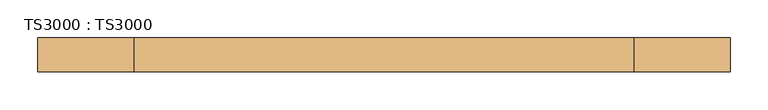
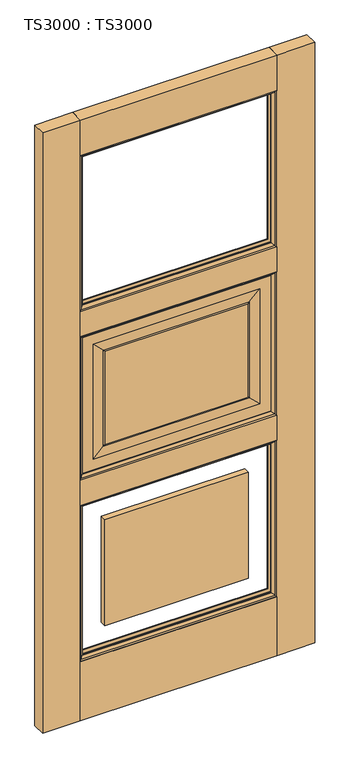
"""IFC4 building model written with IfcOpenShell, lengths in millimetres: door geometry, TS3000 : TS3000."""

from ifc_helpers import new_model, si_unit, frame, origin, origin_with_axes, place, context, project, spatial, polyline, ellipse_curve, outline, extrude, source, transform, mapped, element, save
from ifc_brep_helpers import plane_surface, revolved_surface, advanced_brep


def ts3000_ts3000_06066854(model_context):
    return source(origin(), model_context, "Body", "SolidModel", [
        advanced_brep(
        [(787.4, -12.7, 1363.1333333), (787.4, -31.75, 1363.1333333), (787.4, -31.75, 853.0166667), (787.4, -12.7, 853.0166667), (127.0, -31.75, 1363.1333333), (127.0, -31.75, 853.0166667), (736.6, -31.75, 903.8166667), (177.8, -31.75, 903.8166667), (177.8, -31.75, 1312.3333333), (736.6, -31.75, 1312.3333333), (127.0, -12.7, 853.0166667), (127.0, -12.7, 1363.1333333), (736.6, -12.7, 1312.3333333), (177.8, -12.7, 1312.3333333), (177.8, -12.7, 903.8166667), (736.6, -12.7, 903.8166667), (698.5, -33.3375, 1274.2333333), (698.5, -11.1125, 1274.2333333), (698.5, -11.1125, 941.9166667), (698.5, -33.3375, 941.9166667), (703.2625, -13.49375, 1278.9958333), (703.2625, -13.49375, 937.1541667), (215.9, -11.1125, 941.9166667), (215.9, -33.3375, 941.9166667), (703.2625, -30.95625, 1278.9958333), (703.2625, -30.95625, 937.1541667), (211.1375, -13.49375, 937.1541667), (215.9, -11.1125, 1274.2333333), (215.9, -33.3375, 1274.2333333), (211.1375, -30.95625, 937.1541667), (211.1375, -13.49375, 1278.9958333), (211.1375, -30.95625, 1278.9958333)],
        [
            (0, 1),
            (1, 2),
            (2, 3),
            (3, 0),
            (1, 4),
            (4, 5),
            (5, 2),
            (6, 7),
            (7, 8),
            (8, 9),
            (9, 6),
            (5, 10),
            (10, 3),
            (10, 11),
            (11, 0),
            (12, 13),
            (13, 14),
            (14, 15),
            (15, 12),
            (16, 17),
            (17, 18),
            (18, 19),
            (19, 16),
            (17, 20, ellipse_curve(frame((703.7585938, -6.5484375, 1279.4919271), z_axis=(-0.7071067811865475, 0.0, 0.7071067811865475), x_axis=(-0.7071067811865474, 0.0, -0.7071067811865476)), 9.8471798, 6.9630076)),
            (20, 21),
            (21, 18, ellipse_curve(frame((703.7585938, -6.5484375, 936.6580729), z_axis=(-0.7071067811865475, 0.0, -0.7071067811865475), x_axis=(0.7071067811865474, 0.0, -0.7071067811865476)), 9.8471798, 6.9630076)),
            (18, 22),
            (22, 23),
            (23, 19),
            (24, 16, ellipse_curve(frame((703.7585938, -37.9015625, 1279.4919271), z_axis=(-0.7071067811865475, 0.0, 0.7071067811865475), x_axis=(-0.7071067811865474, 0.0, -0.7071067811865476)), 9.8471798, 6.9630076)),
            (19, 25, ellipse_curve(frame((703.7585938, -37.9015625, 936.6580729), z_axis=(-0.7071067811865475, 0.0, -0.7071067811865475), x_axis=(0.7071067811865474, 0.0, -0.7071067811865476)), 9.8471798, 6.9630076)),
            (25, 24),
            (4, 11),
            (21, 26),
            (26, 22, ellipse_curve(frame((210.6414063, -6.5484375, 936.6580729), z_axis=(-0.7071067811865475, 0.0, 0.7071067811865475), x_axis=(-0.7071067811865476, 0.0, -0.7071067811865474)), 9.8471798, 6.9630076)),
            (22, 27),
            (27, 28),
            (28, 23),
            (23, 29, ellipse_curve(frame((210.6414063, -37.9015625, 936.6580729), z_axis=(-0.7071067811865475, 0.0, 0.7071067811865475), x_axis=(-0.7071067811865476, 0.0, -0.7071067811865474)), 9.8471798, 6.9630076)),
            (29, 25),
            (26, 30),
            (30, 27, ellipse_curve(frame((210.6414063, -6.5484375, 1279.4919271), z_axis=(0.7071067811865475, 0.0, 0.7071067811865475), x_axis=(-0.7071067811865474, 0.0, 0.7071067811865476)), 9.8471798, 6.9630076)),
            (28, 31, ellipse_curve(frame((210.6414063, -37.9015625, 1279.4919271), z_axis=(0.7071067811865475, 0.0, 0.7071067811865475), x_axis=(-0.7071067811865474, 0.0, 0.7071067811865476)), 9.8471798, 6.9630076)),
            (31, 29),
            (6, 25),
            (29, 7),
            (31, 8),
            (9, 24),
            (26, 14),
            (13, 30),
            (21, 15),
            (20, 12),
            (27, 17),
            (16, 28),
            (31, 24),
            (20, 30),
        ],
        [
            plane_surface(frame((787.4, -31.75, 1363.1333333), z_axis=(1.0, 0.0, 0.0), x_axis=(0.0, 0.0, -1.0))),
            plane_surface(frame((177.8, -31.75, 1312.3333333), z_axis=(0.0, -1.0, 0.0), x_axis=(1.0, 0.0, 0.0))),
            plane_surface(frame((787.4, -31.75, 853.0166667), z_axis=(0.0, 0.0, -1.0), x_axis=(-1.0, 0.0, 0.0))),
            plane_surface(frame((127.0, -12.7, 1363.1333333), z_axis=(0.0, 1.0, 0.0), x_axis=(1.0, 0.0, 0.0))),
            plane_surface(frame((698.5, -11.1125, 1274.2333333), z_axis=(-1.0, 0.0, 0.0), x_axis=(0.0, 0.0, -1.0))),
            revolved_surface(polyline([(696.7955862, -6.5484375, 929.6950652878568), (696.7955862, -6.5484375, 1286.4549347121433)]), (703.7585938, -6.5484375, 1274.2333333), (0.0, 0.0, -1.0)),
            plane_surface(frame((698.5, -11.1125, 941.9166667), z_axis=(0.0, 0.0, 1.0), x_axis=(-1.0, 0.0, 0.0))),
            revolved_surface(polyline([(696.7955862, -37.9015625, 929.6950652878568), (696.7955862, -37.9015625, 1286.4549347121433)]), (703.7585938, -37.9015625, 1274.2333333), (0.0, 0.0, -1.0)),
            plane_surface(frame((127.0, -31.75, 853.0166667), z_axis=(-1.0, 0.0, 0.0), x_axis=(0.0, 0.0, 1.0))),
            revolved_surface(polyline([(203.67839868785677, -6.5484375, 943.6210805), (710.7216014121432, -6.5484375, 943.6210805)]), (698.5, -6.5484375, 936.6580729), (-1.0, 0.0, 0.0)),
            plane_surface(frame((215.9, -11.1125, 941.9166667), z_axis=(1.0, 0.0, 0.0), x_axis=(0.0, 0.0, 1.0))),
            revolved_surface(polyline([(203.67839868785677, -37.9015625, 943.6210805), (710.7216014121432, -37.9015625, 943.6210805)]), (698.5, -37.9015625, 936.6580729), (-1.0, 0.0, 0.0)),
            revolved_surface(polyline([(217.6044139, -6.5484375, 1286.4549347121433), (217.6044139, -6.5484375, 929.6950652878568)]), (210.6414063, -6.5484375, 941.9166667), (0.0, 0.0, 1.0)),
            revolved_surface(polyline([(217.6044139, -37.9015625, 1286.4549347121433), (217.6044139, -37.9015625, 929.6950652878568)]), (210.6414063, -37.9015625, 941.9166667), (0.0, 0.0, 1.0)),
            plane_surface(frame((703.2625, -30.95625, 937.1541667), z_axis=(0.0, -0.9997166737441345, 0.023802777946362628), x_axis=(-1.0, 0.0, 0.0))),
            plane_surface(frame((211.1375, -30.95625, 937.1541667), z_axis=(0.023802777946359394, -0.9997166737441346, 0.0), x_axis=(0.0, 0.0, 1.0))),
            plane_surface(frame((703.2625, -30.95625, 1278.9958333), z_axis=(-0.02380277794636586, -0.9997166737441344, 0.0), x_axis=(0.0, 0.0, -1.0))),
            plane_surface(frame((177.8, -12.7, 903.8166667), z_axis=(0.023802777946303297, 0.9997166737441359, 0.0), x_axis=(0.0, 0.0, 1.0))),
            plane_surface(frame((736.6, -12.7, 903.8166667), z_axis=(0.0, 0.999716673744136, 0.023802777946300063), x_axis=(-1.0, 0.0, 0.0))),
            plane_surface(frame((736.6, -12.7, 1312.3333333), z_axis=(-0.02380277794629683, 0.9997166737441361, 0.0), x_axis=(0.0, 0.0, -1.0))),
            plane_surface(frame((127.0, -31.75, 1363.1333333), z_axis=(0.0, 0.0, 1.0), x_axis=(1.0, 0.0, 0.0))),
            plane_surface(frame((215.9, -11.1125, 1274.2333333), z_axis=(0.0, 0.0, -1.0), x_axis=(1.0, 0.0, 0.0))),
            plane_surface(frame((211.1375, -30.95625, 1278.9958333), z_axis=(0.0, -0.9997166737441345, -0.023802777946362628), x_axis=(1.0, 0.0, 0.0))),
            plane_surface(frame((177.8, -12.7, 1312.3333333), z_axis=(0.0, 0.999716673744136, -0.023802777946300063), x_axis=(1.0, 0.0, 0.0))),
            revolved_surface(polyline([(710.7216014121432, -6.5484375, 1272.5289195), (203.6783986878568, -6.5484375, 1272.5289195)]), (215.9, -6.5484375, 1279.4919271), (1.0, 0.0, 0.0)),
            revolved_surface(polyline([(710.7216014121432, -37.9015625, 1272.5289195), (203.6783986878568, -37.9015625, 1272.5289195)]), (215.9, -37.9015625, 1279.4919271), (1.0, 0.0, 0.0)),
        ],
        [
            (0, [[1, 2, 3, 4]]),
            (1, [[5, 6, 7, -2], [8, 9, 10, 11]]),
            (2, [[-3, -7, 12, 13]]),
            (3, [[-13, 14, 15, -4], [16, 17, 18, 19]]),
            (4, [[20, 21, 22, 23]]),
            (5, [[24, 25, 26, -21]]),
            (6, [[-22, 27, 28, 29]]),
            (7, [[30, -23, 31, 32]]),
            (8, [[-12, -6, 33, -14]]),
            (9, [[-26, 34, 35, -27]]),
            (10, [[-28, 36, 37, 38]]),
            (11, [[-31, -29, 39, 40]]),
            (12, [[-35, 41, 42, -36]]),
            (13, [[-39, -38, 43, 44]]),
            (14, [[45, -40, 46, -8]]),
            (15, [[-46, -44, 47, -9]]),
            (16, [[48, -32, -45, -11]]),
            (17, [[49, -17, 50, -41]]),
            (18, [[51, -18, -49, -34]]),
            (19, [[52, -19, -51, -25]]),
            (20, [[-33, -5, -1, -15]]),
            (21, [[-37, 53, -20, 54]]),
            (22, [[-47, 55, -48, -10]]),
            (23, [[-50, -16, -52, 56]]),
            (24, [[-42, -56, -24, -53]]),
            (25, [[-43, -54, -30, -55]]),
        ],
    ),
        extrude(outline(polyline([(787.4, -44.45), (127.0, -44.45), (127.0, 0.0), (787.4, 0.0), (787.4, -44.45)])), origin_with_axes(), (0.0, 0.0, 1.0), 209.55),
        extrude(outline(polyline([(787.4, -44.45), (127.0, -44.45), (127.0, 0.0), (787.4, 0.0), (787.4, -44.45)])), frame((0.0, 0.0, 764.1166667), z_axis=(0.0, 0.0, 1.0), x_axis=(1.0, 0.0, 0.0)), (0.0, 0.0, 1.0), 88.9),
        extrude(outline(polyline([(787.4, -44.45), (127.0, -44.45), (127.0, 0.0), (787.4, 0.0), (787.4, -44.45)])), frame((0.0, 0.0, 2006.6), z_axis=(0.0, 0.0, 1.0), x_axis=(1.0, 0.0, 0.0)), (0.0, 0.0, 1.0), 127.0),
        extrude(outline(polyline([(787.4, -44.45), (127.0, -44.45), (127.0, 0.0), (787.4, 0.0), (787.4, -44.45)])), frame((0.0, 0.0, 1363.1333333), z_axis=(0.0, 0.0, 1.0), x_axis=(1.0, 0.0, 0.0)), (0.0, 0.0, 1.0), 88.9),
        extrude(outline(polyline([(215.9, -11.1125), (698.5, -11.1125), (698.5, -33.3375), (215.9, -33.3375), (215.9, -11.1125)])), frame((0.0, 0.0, 298.45), z_axis=(0.0, 0.0, 1.0), x_axis=(1.0, 0.0, 0.0)), (0.0, 0.0, 1.0), 376.7666667),
        extrude(outline(polyline([(215.9, -11.1125), (698.5, -11.1125), (698.5, -33.3375), (215.9, -33.3375), (215.9, -11.1125)])), frame((0.0, 0.0, 941.9166667), z_axis=(0.0, 0.0, 1.0), x_axis=(1.0, 0.0, 0.0)), (0.0, 0.0, 1.0), 332.3166667),
        extrude(outline(polyline([(914.4, -44.45), (787.4, -44.45), (787.4, 0.0), (914.4, 0.0), (914.4, -44.45)])), origin_with_axes(), (0.0, 0.0, 1.0), 2133.6),
        extrude(outline(polyline([(127.0, -44.45), (0.0, -44.45), (0.0, 0.0), (127.0, 0.0), (127.0, -44.45)])), origin_with_axes(), (0.0, 0.0, 1.0), 2133.6),
        advanced_brep(
        [(787.4, -31.75, 764.1166667), (787.4, -44.4610047, 764.1166667), (787.4, -44.4610047, 209.55), (787.4, -31.75, 209.55), (774.6912454, -34.925, 751.407912), (774.6912454, -31.75, 751.407912), (774.6912454, -31.75, 222.2587546), (774.6912454, -34.925, 222.2587546), (782.5328423, -41.275, 759.249509), (782.5328423, -41.275, 214.4171577), (127.0, -44.4610047, 209.55), (127.0, -31.75, 209.55), (139.7087546, -31.75, 222.2587546), (139.7087546, -34.925, 222.2587546), (131.8671577, -41.275, 214.4171577), (127.0, -44.4610047, 764.1166667), (127.0, -31.75, 764.1166667), (139.7087546, -31.75, 751.407912), (139.7087546, -34.925, 751.407912), (131.8671577, -41.275, 759.249509)],
        [
            (0, 1),
            (1, 2),
            (2, 3),
            (3, 0),
            (4, 5),
            (5, 6),
            (6, 7),
            (7, 4),
            (8, 4, ellipse_curve(frame((770.549739, -48.0561173, 747.2664057), z_axis=(-0.7071067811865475, 0.0, 0.7071067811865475), x_axis=(-0.7071067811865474, 0.0, -0.7071067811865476)), 19.4719447, 13.7687442)),
            (7, 9, ellipse_curve(frame((770.549739, -48.0561173, 226.400261), z_axis=(-0.7071067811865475, 0.0, -0.7071067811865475), x_axis=(0.7071067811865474, 0.0, -0.7071067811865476)), 19.4719447, 13.7687442)),
            (9, 8),
            (1, 8, ellipse_curve(frame((779.4613821, -51.2778746, 756.1780488), z_axis=(-0.7071067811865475, 0.0, 0.7071067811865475), x_axis=(-0.7071067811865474, 0.0, -0.7071067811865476)), 14.7980653, 10.4638123)),
            (9, 2, ellipse_curve(frame((779.4613821, -51.2778746, 217.4886179), z_axis=(-0.7071067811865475, 0.0, -0.7071067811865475), x_axis=(0.7071067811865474, 0.0, -0.7071067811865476)), 14.7980653, 10.4638123)),
            (2, 10),
            (10, 11),
            (11, 3),
            (6, 12),
            (12, 13),
            (13, 7),
            (13, 14, ellipse_curve(frame((143.850261, -48.0561173, 226.400261), z_axis=(-0.7071067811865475, 0.0, 0.7071067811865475), x_axis=(-0.7071067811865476, 0.0, -0.7071067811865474)), 19.4719447, 13.7687442)),
            (14, 9),
            (14, 10, ellipse_curve(frame((134.9386179, -51.2778746, 217.4886179), z_axis=(-0.7071067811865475, 0.0, 0.7071067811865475), x_axis=(-0.7071067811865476, 0.0, -0.7071067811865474)), 14.7980653, 10.4638123)),
            (10, 15),
            (15, 16),
            (16, 11),
            (12, 17),
            (17, 18),
            (18, 13),
            (18, 19, ellipse_curve(frame((143.850261, -48.0561173, 747.2664057), z_axis=(0.7071067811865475, 0.0, 0.7071067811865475), x_axis=(-0.7071067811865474, 0.0, 0.7071067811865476)), 19.4719447, 13.7687442)),
            (19, 14),
            (19, 15, ellipse_curve(frame((134.9386179, -51.2778746, 756.1780488), z_axis=(0.7071067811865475, 0.0, 0.7071067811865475), x_axis=(-0.7071067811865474, 0.0, 0.7071067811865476)), 14.7980653, 10.4638123)),
            (15, 1),
            (0, 16),
            (5, 17),
            (4, 18),
            (8, 19),
        ],
        [
            plane_surface(frame((787.4, -44.4610047, 764.1166667), z_axis=(1.0, 0.0, 0.0), x_axis=(0.0, 0.0, -1.0))),
            plane_surface(frame((774.6912454, -31.75, 751.407912), z_axis=(-1.0, 0.0, 0.0), x_axis=(0.0, 0.0, -1.0))),
            revolved_surface(polyline([(756.7809948, -48.0561173, 212.6315168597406), (756.7809948, -48.0561173, 761.0351498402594)]), (770.549739, -48.0561173, 764.1166667), (0.0, 0.0, -1.0)),
            revolved_surface(polyline([(768.9975698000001, -51.2778746, 207.02480557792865), (768.9975698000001, -51.2778746, 766.6418611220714)]), (779.4613821, -51.2778746, 764.1166667), (0.0, 0.0, -1.0)),
            plane_surface(frame((787.4, -44.4610047, 209.55), z_axis=(0.0, 0.0, -1.0), x_axis=(-1.0, 0.0, 0.0))),
            plane_surface(frame((774.6912454, -31.75, 222.2587546), z_axis=(0.0, 0.0, 1.0), x_axis=(-1.0, 0.0, 0.0))),
            revolved_surface(polyline([(130.08151685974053, -48.0561173, 240.16900520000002), (784.3184831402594, -48.0561173, 240.16900520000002)]), (787.4, -48.0561173, 226.400261), (-1.0, 0.0, 0.0)),
            revolved_surface(polyline([(124.47480557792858, -51.2778746, 227.9524302), (789.9251944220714, -51.2778746, 227.9524302)]), (787.4, -51.2778746, 217.4886179), (-1.0, 0.0, 0.0)),
            plane_surface(frame((127.0, -44.4610047, 209.55), z_axis=(-1.0, 0.0, 0.0), x_axis=(0.0, 0.0, 1.0))),
            plane_surface(frame((139.7087546, -31.75, 222.2587546), z_axis=(1.0, 0.0, 0.0), x_axis=(0.0, 0.0, 1.0))),
            revolved_surface(polyline([(157.6190052, -48.0561173, 761.0351498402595), (157.6190052, -48.0561173, 212.63151685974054)]), (143.850261, -48.0561173, 209.55), (0.0, 0.0, 1.0)),
            revolved_surface(polyline([(145.4024302, -51.2778746, 766.6418611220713), (145.4024302, -51.2778746, 207.02480557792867)]), (134.9386179, -51.2778746, 209.55), (0.0, 0.0, 1.0)),
            plane_surface(frame((127.0, -44.4610047, 764.1166667), z_axis=(0.0, 0.0, 1.0), x_axis=(1.0, 0.0, 0.0))),
            plane_surface(frame((127.0, -31.75, 764.1166667), z_axis=(0.0, 1.0, 0.0), x_axis=(1.0, 0.0, 0.0))),
            plane_surface(frame((139.7087546, -31.75, 751.407912), z_axis=(0.0, 0.0, -1.0), x_axis=(1.0, 0.0, 0.0))),
            revolved_surface(polyline([(784.3184831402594, -48.0561173, 733.4976614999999), (130.08151685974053, -48.0561173, 733.4976614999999)]), (127.0, -48.0561173, 747.2664057), (1.0, 0.0, 0.0)),
            revolved_surface(polyline([(789.9251944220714, -51.2778746, 745.7142365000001), (124.47480557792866, -51.2778746, 745.7142365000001)]), (127.0, -51.2778746, 756.1780488), (1.0, 0.0, 0.0)),
        ],
        [
            (0, [[1, 2, 3, 4]]),
            (1, [[5, 6, 7, 8]]),
            (2, [[9, -8, 10, 11]]),
            (3, [[12, -11, 13, -2]]),
            (4, [[-3, 14, 15, 16]]),
            (5, [[-7, 17, 18, 19]]),
            (6, [[-10, -19, 20, 21]]),
            (7, [[-13, -21, 22, -14]]),
            (8, [[-15, 23, 24, 25]]),
            (9, [[-18, 26, 27, 28]]),
            (10, [[-20, -28, 29, 30]]),
            (11, [[-22, -30, 31, -23]]),
            (12, [[-24, 32, -1, 33]]),
            (13, [[-16, -25, -33, -4], [34, -26, -17, -6]]),
            (14, [[-27, -34, -5, 35]]),
            (15, [[-29, -35, -9, 36]]),
            (16, [[-31, -36, -12, -32]]),
        ],
    ),
        advanced_brep(
        [(782.5328423, -3.175, 759.249509), (787.4, 0.0110047, 764.1166667), (787.4, 0.0110047, 209.55), (782.5328423, -3.175, 214.4171577), (774.6912454, -9.525, 751.407912), (774.6912454, -9.525, 222.2587546), (774.6912454, -12.7, 751.407912), (774.6912454, -12.7, 222.2587546), (787.4, -12.7, 764.1166667), (787.4, -12.7, 209.55), (127.0, 0.0110047, 209.55), (131.8671577, -3.175, 214.4171577), (139.7087546, -9.525, 222.2587546), (139.7087546, -12.7, 222.2587546), (127.0, -12.7, 209.55), (127.0, 0.0110047, 764.1166667), (131.8671577, -3.175, 759.249509), (139.7087546, -9.525, 751.407912), (139.7087546, -12.7, 751.407912), (127.0, -12.7, 764.1166667)],
        [
            (0, 1, ellipse_curve(frame((779.4613821, 6.8278746, 756.1780488), z_axis=(-0.7071067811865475, 0.0, 0.7071067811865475), x_axis=(-0.7071067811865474, 0.0, -0.7071067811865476)), 14.7980653, 10.4638123)),
            (1, 2),
            (2, 3, ellipse_curve(frame((779.4613821, 6.8278746, 217.4886179), z_axis=(-0.7071067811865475, 0.0, -0.7071067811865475), x_axis=(0.7071067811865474, 0.0, -0.7071067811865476)), 14.7980653, 10.4638123)),
            (3, 0),
            (4, 0, ellipse_curve(frame((770.549739, 3.6061173, 747.2664057), z_axis=(-0.7071067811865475, 0.0, 0.7071067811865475), x_axis=(-0.7071067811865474, 0.0, -0.7071067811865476)), 19.4719447, 13.7687442)),
            (3, 5, ellipse_curve(frame((770.549739, 3.6061173, 226.400261), z_axis=(-0.7071067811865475, 0.0, -0.7071067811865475), x_axis=(0.7071067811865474, 0.0, -0.7071067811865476)), 19.4719447, 13.7687442)),
            (5, 4),
            (6, 4),
            (5, 7),
            (7, 6),
            (1, 8),
            (8, 9),
            (9, 2),
            (2, 10),
            (10, 11, ellipse_curve(frame((134.9386179, 6.8278746, 217.4886179), z_axis=(-0.7071067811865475, 0.0, 0.7071067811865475), x_axis=(-0.7071067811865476, 0.0, -0.7071067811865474)), 14.7980653, 10.4638123)),
            (11, 3),
            (11, 12, ellipse_curve(frame((143.850261, 3.6061173, 226.400261), z_axis=(-0.7071067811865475, 0.0, 0.7071067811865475), x_axis=(-0.7071067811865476, 0.0, -0.7071067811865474)), 19.4719447, 13.7687442)),
            (12, 5),
            (12, 13),
            (13, 7),
            (9, 14),
            (14, 10),
            (10, 15),
            (15, 16, ellipse_curve(frame((134.9386179, 6.8278746, 756.1780488), z_axis=(0.7071067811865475, 0.0, 0.7071067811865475), x_axis=(-0.7071067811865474, 0.0, 0.7071067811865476)), 14.7980653, 10.4638123)),
            (16, 11),
            (16, 17, ellipse_curve(frame((143.850261, 3.6061173, 747.2664057), z_axis=(0.7071067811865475, 0.0, 0.7071067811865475), x_axis=(-0.7071067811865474, 0.0, 0.7071067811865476)), 19.4719447, 13.7687442)),
            (17, 12),
            (17, 18),
            (18, 13),
            (14, 19),
            (19, 15),
            (15, 1),
            (0, 16),
            (4, 17),
            (6, 18),
            (8, 19),
        ],
        [
            revolved_surface(polyline([(768.9975698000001, 6.8278746, 207.02480557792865), (768.9975698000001, 6.8278746, 766.6418611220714)]), (779.4613821, 6.8278746, 764.1166667), (0.0, 0.0, -1.0)),
            revolved_surface(polyline([(756.7809948, 3.6061173, 212.6315168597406), (756.7809948, 3.6061173, 761.0351498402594)]), (770.549739, 3.6061173, 764.1166667), (0.0, 0.0, -1.0)),
            plane_surface(frame((774.6912454, -9.525, 751.407912), z_axis=(-1.0, 0.0, 0.0), x_axis=(0.0, 0.0, -1.0))),
            plane_surface(frame((787.4, -12.7, 764.1166667), z_axis=(1.0, 0.0, 0.0), x_axis=(0.0, 0.0, -1.0))),
            revolved_surface(polyline([(124.47480557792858, 6.8278746, 227.9524302), (789.9251944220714, 6.8278746, 227.9524302)]), (787.4, 6.8278746, 217.4886179), (-1.0, 0.0, 0.0)),
            revolved_surface(polyline([(130.08151685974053, 3.6061173, 240.16900520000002), (784.3184831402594, 3.6061173, 240.16900520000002)]), (787.4, 3.6061173, 226.400261), (-1.0, 0.0, 0.0)),
            plane_surface(frame((774.6912454, -9.525, 222.2587546), z_axis=(0.0, 0.0, 1.0), x_axis=(-1.0, 0.0, 0.0))),
            plane_surface(frame((787.4, -12.7, 209.55), z_axis=(0.0, 0.0, -1.0), x_axis=(-1.0, 0.0, 0.0))),
            revolved_surface(polyline([(145.4024302, 6.8278746, 766.6418611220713), (145.4024302, 6.8278746, 207.02480557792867)]), (134.9386179, 6.8278746, 209.55), (0.0, 0.0, 1.0)),
            revolved_surface(polyline([(157.6190052, 3.6061173, 761.0351498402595), (157.6190052, 3.6061173, 212.63151685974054)]), (143.850261, 3.6061173, 209.55), (0.0, 0.0, 1.0)),
            plane_surface(frame((139.7087546, -9.525, 222.2587546), z_axis=(1.0, 0.0, 0.0), x_axis=(0.0, 0.0, 1.0))),
            plane_surface(frame((127.0, -12.7, 209.55), z_axis=(-1.0, 0.0, 0.0), x_axis=(0.0, 0.0, 1.0))),
            revolved_surface(polyline([(789.9251944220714, 6.8278746, 745.7142365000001), (124.47480557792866, 6.8278746, 745.7142365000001)]), (127.0, 6.8278746, 756.1780488), (1.0, 0.0, 0.0)),
            revolved_surface(polyline([(784.3184831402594, 3.6061173, 733.4976614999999), (130.08151685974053, 3.6061173, 733.4976614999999)]), (127.0, 3.6061173, 747.2664057), (1.0, 0.0, 0.0)),
            plane_surface(frame((139.7087546, -9.525, 751.407912), z_axis=(0.0, 0.0, -1.0), x_axis=(1.0, 0.0, 0.0))),
            plane_surface(frame((139.7087546, -12.7, 751.407912), z_axis=(0.0, -1.0, 0.0), x_axis=(1.0, 0.0, 0.0))),
            plane_surface(frame((127.0, -12.7, 764.1166667), z_axis=(0.0, 0.0, 1.0), x_axis=(1.0, 0.0, 0.0))),
        ],
        [
            (0, [[1, 2, 3, 4]]),
            (1, [[5, -4, 6, 7]]),
            (2, [[8, -7, 9, 10]]),
            (3, [[11, 12, 13, -2]]),
            (4, [[-3, 14, 15, 16]]),
            (5, [[-6, -16, 17, 18]]),
            (6, [[-9, -18, 19, 20]]),
            (7, [[-13, 21, 22, -14]]),
            (8, [[-15, 23, 24, 25]]),
            (9, [[-17, -25, 26, 27]]),
            (10, [[-19, -27, 28, 29]]),
            (11, [[-22, 30, 31, -23]]),
            (12, [[-24, 32, -1, 33]]),
            (13, [[-26, -33, -5, 34]]),
            (14, [[-28, -34, -8, 35]]),
            (15, [[36, -30, -21, -12], [-20, -29, -35, -10]]),
            (16, [[-31, -36, -11, -32]]),
        ],
    ),
        advanced_brep(
        [(787.4, -31.75, 1363.1333333), (787.4, -44.4610047, 1363.1333333), (787.4, -44.4610047, 853.0166667), (787.4, -31.75, 853.0166667), (774.6912454, -34.925, 1350.4245787), (774.6912454, -31.75, 1350.4245787), (774.6912454, -31.75, 865.7254213), (774.6912454, -34.925, 865.7254213), (782.5328423, -41.275, 1358.2661757), (782.5328423, -41.275, 857.8838243), (127.0, -44.4610047, 853.0166667), (127.0, -31.75, 853.0166667), (139.7087546, -31.75, 865.7254213), (139.7087546, -34.925, 865.7254213), (131.8671577, -41.275, 857.8838243), (127.0, -44.4610047, 1363.1333333), (127.0, -31.75, 1363.1333333), (139.7087546, -31.75, 1350.4245787), (139.7087546, -34.925, 1350.4245787), (131.8671577, -41.275, 1358.2661757)],
        [
            (0, 1),
            (1, 2),
            (2, 3),
            (3, 0),
            (4, 5),
            (5, 6),
            (6, 7),
            (7, 4),
            (8, 4, ellipse_curve(frame((770.549739, -48.0561173, 1346.2830724), z_axis=(-0.7071067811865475, 0.0, 0.7071067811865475), x_axis=(-0.7071067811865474, 0.0, -0.7071067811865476)), 19.4719447, 13.7687442)),
            (7, 9, ellipse_curve(frame((770.549739, -48.0561173, 869.8669276), z_axis=(-0.7071067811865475, 0.0, -0.7071067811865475), x_axis=(0.7071067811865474, 0.0, -0.7071067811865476)), 19.4719447, 13.7687442)),
            (9, 8),
            (1, 8, ellipse_curve(frame((779.4613821, -51.2778746, 1355.1947155), z_axis=(-0.7071067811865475, 0.0, 0.7071067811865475), x_axis=(-0.7071067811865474, 0.0, -0.7071067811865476)), 14.7980653, 10.4638123)),
            (9, 2, ellipse_curve(frame((779.4613821, -51.2778746, 860.9552845), z_axis=(-0.7071067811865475, 0.0, -0.7071067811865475), x_axis=(0.7071067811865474, 0.0, -0.7071067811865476)), 14.7980653, 10.4638123)),
            (2, 10),
            (10, 11),
            (11, 3),
            (6, 12),
            (12, 13),
            (13, 7),
            (13, 14, ellipse_curve(frame((143.850261, -48.0561173, 869.8669276), z_axis=(-0.7071067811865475, 0.0, 0.7071067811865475), x_axis=(-0.7071067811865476, 0.0, -0.7071067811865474)), 19.4719447, 13.7687442)),
            (14, 9),
            (14, 10, ellipse_curve(frame((134.9386179, -51.2778746, 860.9552845), z_axis=(-0.7071067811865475, 0.0, 0.7071067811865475), x_axis=(-0.7071067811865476, 0.0, -0.7071067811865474)), 14.7980653, 10.4638123)),
            (10, 15),
            (15, 16),
            (16, 11),
            (12, 17),
            (17, 18),
            (18, 13),
            (18, 19, ellipse_curve(frame((143.850261, -48.0561173, 1346.2830724), z_axis=(0.7071067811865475, 0.0, 0.7071067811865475), x_axis=(-0.7071067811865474, 0.0, 0.7071067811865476)), 19.4719447, 13.7687442)),
            (19, 14),
            (19, 15, ellipse_curve(frame((134.9386179, -51.2778746, 1355.1947155), z_axis=(0.7071067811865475, 0.0, 0.7071067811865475), x_axis=(-0.7071067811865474, 0.0, 0.7071067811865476)), 14.7980653, 10.4638123)),
            (15, 1),
            (0, 16),
            (5, 17),
            (4, 18),
            (8, 19),
        ],
        [
            plane_surface(frame((787.4, -44.4610047, 1363.1333333), z_axis=(1.0, 0.0, 0.0), x_axis=(0.0, 0.0, -1.0))),
            plane_surface(frame((774.6912454, -31.75, 1350.4245787), z_axis=(-1.0, 0.0, 0.0), x_axis=(0.0, 0.0, -1.0))),
            revolved_surface(polyline([(756.7809948, -48.0561173, 856.0981834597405), (756.7809948, -48.0561173, 1360.0518165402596)]), (770.549739, -48.0561173, 1363.1333333), (0.0, 0.0, -1.0)),
            revolved_surface(polyline([(768.9975698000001, -51.2778746, 850.4914721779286), (768.9975698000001, -51.2778746, 1365.6585278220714)]), (779.4613821, -51.2778746, 1363.1333333), (0.0, 0.0, -1.0)),
            plane_surface(frame((787.4, -44.4610047, 853.0166667), z_axis=(0.0, 0.0, -1.0), x_axis=(-1.0, 0.0, 0.0))),
            plane_surface(frame((774.6912454, -31.75, 865.7254213), z_axis=(0.0, 0.0, 1.0), x_axis=(-1.0, 0.0, 0.0))),
            revolved_surface(polyline([(130.08151685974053, -48.0561173, 883.6356718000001), (784.3184831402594, -48.0561173, 883.6356718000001)]), (787.4, -48.0561173, 869.8669276), (-1.0, 0.0, 0.0)),
            revolved_surface(polyline([(124.47480557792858, -51.2778746, 871.4190967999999), (789.9251944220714, -51.2778746, 871.4190967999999)]), (787.4, -51.2778746, 860.9552845), (-1.0, 0.0, 0.0)),
            plane_surface(frame((127.0, -44.4610047, 853.0166667), z_axis=(-1.0, 0.0, 0.0), x_axis=(0.0, 0.0, 1.0))),
            plane_surface(frame((139.7087546, -31.75, 865.7254213), z_axis=(1.0, 0.0, 0.0), x_axis=(0.0, 0.0, 1.0))),
            revolved_surface(polyline([(157.6190052, -48.0561173, 1360.0518165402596), (157.6190052, -48.0561173, 856.0981834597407)]), (143.850261, -48.0561173, 853.0166667), (0.0, 0.0, 1.0)),
            revolved_surface(polyline([(145.4024302, -51.2778746, 1365.6585278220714), (145.4024302, -51.2778746, 850.4914721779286)]), (134.9386179, -51.2778746, 853.0166667), (0.0, 0.0, 1.0)),
            plane_surface(frame((127.0, -44.4610047, 1363.1333333), z_axis=(0.0, 0.0, 1.0), x_axis=(1.0, 0.0, 0.0))),
            plane_surface(frame((127.0, -31.75, 1363.1333333), z_axis=(0.0, 1.0, 0.0), x_axis=(1.0, 0.0, 0.0))),
            plane_surface(frame((139.7087546, -31.75, 1350.4245787), z_axis=(0.0, 0.0, -1.0), x_axis=(1.0, 0.0, 0.0))),
            revolved_surface(polyline([(784.3184831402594, -48.0561173, 1332.5143282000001), (130.08151685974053, -48.0561173, 1332.5143282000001)]), (127.0, -48.0561173, 1346.2830724), (1.0, 0.0, 0.0)),
            revolved_surface(polyline([(789.9251944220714, -51.2778746, 1344.7309032), (124.47480557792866, -51.2778746, 1344.7309032)]), (127.0, -51.2778746, 1355.1947155), (1.0, 0.0, 0.0)),
        ],
        [
            (0, [[1, 2, 3, 4]]),
            (1, [[5, 6, 7, 8]]),
            (2, [[9, -8, 10, 11]]),
            (3, [[12, -11, 13, -2]]),
            (4, [[-3, 14, 15, 16]]),
            (5, [[-7, 17, 18, 19]]),
            (6, [[-10, -19, 20, 21]]),
            (7, [[-13, -21, 22, -14]]),
            (8, [[-15, 23, 24, 25]]),
            (9, [[-18, 26, 27, 28]]),
            (10, [[-20, -28, 29, 30]]),
            (11, [[-22, -30, 31, -23]]),
            (12, [[-24, 32, -1, 33]]),
            (13, [[-16, -25, -33, -4], [34, -26, -17, -6]]),
            (14, [[-27, -34, -5, 35]]),
            (15, [[-29, -35, -9, 36]]),
            (16, [[-31, -36, -12, -32]]),
        ],
    ),
        advanced_brep(
        [(782.5328423, -3.175, 1358.2661757), (787.4, 0.0110047, 1363.1333333), (787.4, 0.0110047, 853.0166667), (782.5328423, -3.175, 857.8838243), (774.6912454, -9.525, 1350.4245787), (774.6912454, -9.525, 865.7254213), (774.6912454, -12.7, 1350.4245787), (774.6912454, -12.7, 865.7254213), (787.4, -12.7, 1363.1333333), (787.4, -12.7, 853.0166667), (127.0, 0.0110047, 853.0166667), (131.8671577, -3.175, 857.8838243), (139.7087546, -9.525, 865.7254213), (139.7087546, -12.7, 865.7254213), (127.0, -12.7, 853.0166667), (127.0, 0.0110047, 1363.1333333), (131.8671577, -3.175, 1358.2661757), (139.7087546, -9.525, 1350.4245787), (139.7087546, -12.7, 1350.4245787), (127.0, -12.7, 1363.1333333)],
        [
            (0, 1, ellipse_curve(frame((779.4613821, 6.8278746, 1355.1947155), z_axis=(-0.7071067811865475, 0.0, 0.7071067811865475), x_axis=(-0.7071067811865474, 0.0, -0.7071067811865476)), 14.7980653, 10.4638123)),
            (1, 2),
            (2, 3, ellipse_curve(frame((779.4613821, 6.8278746, 860.9552845), z_axis=(-0.7071067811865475, 0.0, -0.7071067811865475), x_axis=(0.7071067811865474, 0.0, -0.7071067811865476)), 14.7980653, 10.4638123)),
            (3, 0),
            (4, 0, ellipse_curve(frame((770.549739, 3.6061173, 1346.2830724), z_axis=(-0.7071067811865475, 0.0, 0.7071067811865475), x_axis=(-0.7071067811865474, 0.0, -0.7071067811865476)), 19.4719447, 13.7687442)),
            (3, 5, ellipse_curve(frame((770.549739, 3.6061173, 869.8669276), z_axis=(-0.7071067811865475, 0.0, -0.7071067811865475), x_axis=(0.7071067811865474, 0.0, -0.7071067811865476)), 19.4719447, 13.7687442)),
            (5, 4),
            (6, 4),
            (5, 7),
            (7, 6),
            (1, 8),
            (8, 9),
            (9, 2),
            (2, 10),
            (10, 11, ellipse_curve(frame((134.9386179, 6.8278746, 860.9552845), z_axis=(-0.7071067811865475, 0.0, 0.7071067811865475), x_axis=(-0.7071067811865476, 0.0, -0.7071067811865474)), 14.7980653, 10.4638123)),
            (11, 3),
            (11, 12, ellipse_curve(frame((143.850261, 3.6061173, 869.8669276), z_axis=(-0.7071067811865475, 0.0, 0.7071067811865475), x_axis=(-0.7071067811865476, 0.0, -0.7071067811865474)), 19.4719447, 13.7687442)),
            (12, 5),
            (12, 13),
            (13, 7),
            (9, 14),
            (14, 10),
            (10, 15),
            (15, 16, ellipse_curve(frame((134.9386179, 6.8278746, 1355.1947155), z_axis=(0.7071067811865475, 0.0, 0.7071067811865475), x_axis=(-0.7071067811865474, 0.0, 0.7071067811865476)), 14.7980653, 10.4638123)),
            (16, 11),
            (16, 17, ellipse_curve(frame((143.850261, 3.6061173, 1346.2830724), z_axis=(0.7071067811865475, 0.0, 0.7071067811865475), x_axis=(-0.7071067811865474, 0.0, 0.7071067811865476)), 19.4719447, 13.7687442)),
            (17, 12),
            (17, 18),
            (18, 13),
            (14, 19),
            (19, 15),
            (15, 1),
            (0, 16),
            (4, 17),
            (6, 18),
            (8, 19),
        ],
        [
            revolved_surface(polyline([(768.9975698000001, 6.8278746, 850.4914721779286), (768.9975698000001, 6.8278746, 1365.6585278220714)]), (779.4613821, 6.8278746, 1363.1333333), (0.0, 0.0, -1.0)),
            revolved_surface(polyline([(756.7809948, 3.6061173, 856.0981834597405), (756.7809948, 3.6061173, 1360.0518165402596)]), (770.549739, 3.6061173, 1363.1333333), (0.0, 0.0, -1.0)),
            plane_surface(frame((774.6912454, -9.525, 1350.4245787), z_axis=(-1.0, 0.0, 0.0), x_axis=(0.0, 0.0, -1.0))),
            plane_surface(frame((787.4, -12.7, 1363.1333333), z_axis=(1.0, 0.0, 0.0), x_axis=(0.0, 0.0, -1.0))),
            revolved_surface(polyline([(124.47480557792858, 6.8278746, 871.4190967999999), (789.9251944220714, 6.8278746, 871.4190967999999)]), (787.4, 6.8278746, 860.9552845), (-1.0, 0.0, 0.0)),
            revolved_surface(polyline([(130.08151685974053, 3.6061173, 883.6356718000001), (784.3184831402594, 3.6061173, 883.6356718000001)]), (787.4, 3.6061173, 869.8669276), (-1.0, 0.0, 0.0)),
            plane_surface(frame((774.6912454, -9.525, 865.7254213), z_axis=(0.0, 0.0, 1.0), x_axis=(-1.0, 0.0, 0.0))),
            plane_surface(frame((787.4, -12.7, 853.0166667), z_axis=(0.0, 0.0, -1.0), x_axis=(-1.0, 0.0, 0.0))),
            revolved_surface(polyline([(145.4024302, 6.8278746, 1365.6585278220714), (145.4024302, 6.8278746, 850.4914721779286)]), (134.9386179, 6.8278746, 853.0166667), (0.0, 0.0, 1.0)),
            revolved_surface(polyline([(157.6190052, 3.6061173, 1360.0518165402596), (157.6190052, 3.6061173, 856.0981834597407)]), (143.850261, 3.6061173, 853.0166667), (0.0, 0.0, 1.0)),
            plane_surface(frame((139.7087546, -9.525, 865.7254213), z_axis=(1.0, 0.0, 0.0), x_axis=(0.0, 0.0, 1.0))),
            plane_surface(frame((127.0, -12.7, 853.0166667), z_axis=(-1.0, 0.0, 0.0), x_axis=(0.0, 0.0, 1.0))),
            revolved_surface(polyline([(789.9251944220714, 6.8278746, 1344.7309032), (124.47480557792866, 6.8278746, 1344.7309032)]), (127.0, 6.8278746, 1355.1947155), (1.0, 0.0, 0.0)),
            revolved_surface(polyline([(784.3184831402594, 3.6061173, 1332.5143282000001), (130.08151685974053, 3.6061173, 1332.5143282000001)]), (127.0, 3.6061173, 1346.2830724), (1.0, 0.0, 0.0)),
            plane_surface(frame((139.7087546, -9.525, 1350.4245787), z_axis=(0.0, 0.0, -1.0), x_axis=(1.0, 0.0, 0.0))),
            plane_surface(frame((139.7087546, -12.7, 1350.4245787), z_axis=(0.0, -1.0, 0.0), x_axis=(1.0, 0.0, 0.0))),
            plane_surface(frame((127.0, -12.7, 1363.1333333), z_axis=(0.0, 0.0, 1.0), x_axis=(1.0, 0.0, 0.0))),
        ],
        [
            (0, [[1, 2, 3, 4]]),
            (1, [[5, -4, 6, 7]]),
            (2, [[8, -7, 9, 10]]),
            (3, [[11, 12, 13, -2]]),
            (4, [[-3, 14, 15, 16]]),
            (5, [[-6, -16, 17, 18]]),
            (6, [[-9, -18, 19, 20]]),
            (7, [[-13, 21, 22, -14]]),
            (8, [[-15, 23, 24, 25]]),
            (9, [[-17, -25, 26, 27]]),
            (10, [[-19, -27, 28, 29]]),
            (11, [[-22, 30, 31, -23]]),
            (12, [[-24, 32, -1, 33]]),
            (13, [[-26, -33, -5, 34]]),
            (14, [[-28, -34, -8, 35]]),
            (15, [[36, -30, -21, -12], [-20, -29, -35, -10]]),
            (16, [[-31, -36, -11, -32]]),
        ],
    ),
        advanced_brep(
        [(787.4, -31.75, 2006.6), (787.4, -44.4610047, 2006.6), (787.4, -44.4610047, 1452.0333333), (787.4, -31.75, 1452.0333333), (774.6912454, -34.925, 1993.8912454), (774.6912454, -31.75, 1993.8912454), (774.6912454, -31.75, 1464.742088), (774.6912454, -34.925, 1464.742088), (782.5328423, -41.275, 2001.7328423), (782.5328423, -41.275, 1456.900491), (127.0, -44.4610047, 1452.0333333), (127.0, -31.75, 1452.0333333), (139.7087546, -31.75, 1464.742088), (139.7087546, -34.925, 1464.742088), (131.8671577, -41.275, 1456.900491), (127.0, -44.4610047, 2006.6), (127.0, -31.75, 2006.6), (139.7087546, -31.75, 1993.8912454), (139.7087546, -34.925, 1993.8912454), (131.8671577, -41.275, 2001.7328423)],
        [
            (0, 1),
            (1, 2),
            (2, 3),
            (3, 0),
            (4, 5),
            (5, 6),
            (6, 7),
            (7, 4),
            (8, 4, ellipse_curve(frame((771.2743353, -47.1613154, 1990.4743353), z_axis=(-0.7071067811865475, 0.0, 0.7071067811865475), x_axis=(-0.7071067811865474, 0.0, -0.7071067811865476)), 17.9667854, 12.7044358)),
            (7, 9, ellipse_curve(frame((771.2743353, -47.1613154, 1468.158998), z_axis=(-0.7071067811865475, 0.0, -0.7071067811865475), x_axis=(0.7071067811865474, 0.0, -0.7071067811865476)), 17.9667854, 12.7044358)),
            (9, 8),
            (1, 8, ellipse_curve(frame((780.1585588, -50.2128202, 1999.3585588), z_axis=(-0.7071067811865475, 0.0, 0.7071067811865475), x_axis=(-0.7071067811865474, 0.0, -0.7071067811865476)), 13.0783678, 9.2478026)),
            (9, 2, ellipse_curve(frame((780.1585588, -50.2128202, 1459.2747746), z_axis=(-0.7071067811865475, 0.0, -0.7071067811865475), x_axis=(0.7071067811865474, 0.0, -0.7071067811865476)), 13.0783678, 9.2478026)),
            (2, 10),
            (10, 11),
            (11, 3),
            (6, 12),
            (12, 13),
            (13, 7),
            (13, 14, ellipse_curve(frame((143.1256647, -47.1613154, 1468.158998), z_axis=(-0.7071067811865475, 0.0, 0.7071067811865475), x_axis=(-0.7071067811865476, 0.0, -0.7071067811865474)), 17.9667854, 12.7044358)),
            (14, 9),
            (14, 10, ellipse_curve(frame((134.2414412, -50.2128202, 1459.2747746), z_axis=(-0.7071067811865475, 0.0, 0.7071067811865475), x_axis=(-0.7071067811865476, 0.0, -0.7071067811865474)), 13.0783678, 9.2478026)),
            (10, 15),
            (15, 16),
            (16, 11),
            (12, 17),
            (17, 18),
            (18, 13),
            (18, 19, ellipse_curve(frame((143.1256647, -47.1613154, 1990.4743353), z_axis=(0.7071067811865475, 0.0, 0.7071067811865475), x_axis=(-0.7071067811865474, 0.0, 0.7071067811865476)), 17.9667854, 12.7044358)),
            (19, 14),
            (19, 15, ellipse_curve(frame((134.2414412, -50.2128202, 1999.3585588), z_axis=(0.7071067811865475, 0.0, 0.7071067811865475), x_axis=(-0.7071067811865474, 0.0, 0.7071067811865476)), 13.0783678, 9.2478026)),
            (15, 1),
            (0, 16),
            (5, 17),
            (4, 18),
            (8, 19),
        ],
        [
            plane_surface(frame((787.4, -44.4610047, 2006.6), z_axis=(1.0, 0.0, 0.0), x_axis=(0.0, 0.0, -1.0))),
            plane_surface(frame((774.6912454, -31.75, 1993.8912454), z_axis=(-1.0, 0.0, 0.0), x_axis=(0.0, 0.0, -1.0))),
            revolved_surface(polyline([(758.5698994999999, -47.1613154, 1455.4545622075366), (758.5698994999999, -47.1613154, 2003.1787710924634)]), (771.2743353, -47.1613154, 2006.6), (0.0, 0.0, -1.0)),
            revolved_surface(polyline([(770.9107562, -50.2128202, 1450.0269720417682), (770.9107562, -50.2128202, 2008.6063613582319)]), (780.1585588, -50.2128202, 2006.6), (0.0, 0.0, -1.0)),
            plane_surface(frame((787.4, -44.4610047, 1452.0333333), z_axis=(0.0, 0.0, -1.0), x_axis=(-1.0, 0.0, 0.0))),
            plane_surface(frame((774.6912454, -31.75, 1464.742088), z_axis=(0.0, 0.0, 1.0), x_axis=(-1.0, 0.0, 0.0))),
            revolved_surface(polyline([(130.4212289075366, -47.1613154, 1480.8634338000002), (783.9787710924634, -47.1613154, 1480.8634338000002)]), (787.4, -47.1613154, 1468.158998), (-1.0, 0.0, 0.0)),
            revolved_surface(polyline([(124.99363864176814, -50.2128202, 1468.5225772), (789.4063613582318, -50.2128202, 1468.5225772)]), (787.4, -50.2128202, 1459.2747746), (-1.0, 0.0, 0.0)),
            plane_surface(frame((127.0, -44.4610047, 1452.0333333), z_axis=(-1.0, 0.0, 0.0), x_axis=(0.0, 0.0, 1.0))),
            plane_surface(frame((139.7087546, -31.75, 1464.742088), z_axis=(1.0, 0.0, 0.0), x_axis=(0.0, 0.0, 1.0))),
            revolved_surface(polyline([(155.8301005, -47.1613154, 2003.1787710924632), (155.8301005, -47.1613154, 1455.4545622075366)]), (143.1256647, -47.1613154, 1452.0333333), (0.0, 0.0, 1.0)),
            revolved_surface(polyline([(143.4892438, -50.2128202, 2008.6063613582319), (143.4892438, -50.2128202, 1450.0269720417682)]), (134.2414412, -50.2128202, 1452.0333333), (0.0, 0.0, 1.0)),
            plane_surface(frame((127.0, -44.4610047, 2006.6), z_axis=(0.0, 0.0, 1.0), x_axis=(1.0, 0.0, 0.0))),
            plane_surface(frame((127.0, -31.75, 2006.6), z_axis=(0.0, 1.0, 0.0), x_axis=(1.0, 0.0, 0.0))),
            plane_surface(frame((139.7087546, -31.75, 1993.8912454), z_axis=(0.0, 0.0, -1.0), x_axis=(1.0, 0.0, 0.0))),
            revolved_surface(polyline([(783.9787710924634, -47.1613154, 1977.7698994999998), (130.42122890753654, -47.1613154, 1977.7698994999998)]), (127.0, -47.1613154, 1990.4743353), (1.0, 0.0, 0.0)),
            revolved_surface(polyline([(789.4063613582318, -50.2128202, 1990.1107562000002), (124.99363864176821, -50.2128202, 1990.1107562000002)]), (127.0, -50.2128202, 1999.3585588), (1.0, 0.0, 0.0)),
        ],
        [
            (0, [[1, 2, 3, 4]]),
            (1, [[5, 6, 7, 8]]),
            (2, [[9, -8, 10, 11]]),
            (3, [[12, -11, 13, -2]]),
            (4, [[-3, 14, 15, 16]]),
            (5, [[-7, 17, 18, 19]]),
            (6, [[-10, -19, 20, 21]]),
            (7, [[-13, -21, 22, -14]]),
            (8, [[-15, 23, 24, 25]]),
            (9, [[-18, 26, 27, 28]]),
            (10, [[-20, -28, 29, 30]]),
            (11, [[-22, -30, 31, -23]]),
            (12, [[-24, 32, -1, 33]]),
            (13, [[-16, -25, -33, -4], [34, -26, -17, -6]]),
            (14, [[-27, -34, -5, 35]]),
            (15, [[-29, -35, -9, 36]]),
            (16, [[-31, -36, -12, -32]]),
        ],
    ),
        advanced_brep(
        [(782.5328423, -3.175, 2001.7328423), (787.4, 0.0110047, 2006.6), (787.4, 0.0110047, 1452.0333333), (782.5328423, -3.175, 1456.900491), (774.6912454, -9.525, 1993.8912454), (774.6912454, -9.525, 1464.742088), (774.6912454, -12.7, 1993.8912454), (774.6912454, -12.7, 1464.742088), (787.4, -12.7, 2006.6), (787.4, -12.7, 1452.0333333), (127.0, 0.0110047, 1452.0333333), (131.8671577, -3.175, 1456.900491), (139.7087546, -9.525, 1464.742088), (139.7087546, -12.7, 1464.742088), (127.0, -12.7, 1452.0333333), (127.0, 0.0110047, 2006.6), (131.8671577, -3.175, 2001.7328423), (139.7087546, -9.525, 1993.8912454), (139.7087546, -12.7, 1993.8912454), (127.0, -12.7, 2006.6)],
        [
            (0, 1, ellipse_curve(frame((780.1585588, 5.7628202, 1999.3585588), z_axis=(-0.7071067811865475, 0.0, 0.7071067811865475), x_axis=(-0.7071067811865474, 0.0, -0.7071067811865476)), 13.0783678, 9.2478026)),
            (1, 2),
            (2, 3, ellipse_curve(frame((780.1585588, 5.7628202, 1459.2747746), z_axis=(-0.7071067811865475, 0.0, -0.7071067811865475), x_axis=(0.7071067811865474, 0.0, -0.7071067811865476)), 13.0783678, 9.2478026)),
            (3, 0),
            (4, 0, ellipse_curve(frame((771.2743353, 2.7113154, 1990.4743353), z_axis=(-0.7071067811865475, 0.0, 0.7071067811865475), x_axis=(-0.7071067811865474, 0.0, -0.7071067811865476)), 17.9667854, 12.7044358)),
            (3, 5, ellipse_curve(frame((771.2743353, 2.7113154, 1468.158998), z_axis=(-0.7071067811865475, 0.0, -0.7071067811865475), x_axis=(0.7071067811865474, 0.0, -0.7071067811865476)), 17.9667854, 12.7044358)),
            (5, 4),
            (6, 4),
            (5, 7),
            (7, 6),
            (1, 8),
            (8, 9),
            (9, 2),
            (2, 10),
            (10, 11, ellipse_curve(frame((134.2414412, 5.7628202, 1459.2747746), z_axis=(-0.7071067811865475, 0.0, 0.7071067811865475), x_axis=(-0.7071067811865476, 0.0, -0.7071067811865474)), 13.0783678, 9.2478026)),
            (11, 3),
            (11, 12, ellipse_curve(frame((143.1256647, 2.7113154, 1468.158998), z_axis=(-0.7071067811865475, 0.0, 0.7071067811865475), x_axis=(-0.7071067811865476, 0.0, -0.7071067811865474)), 17.9667854, 12.7044358)),
            (12, 5),
            (12, 13),
            (13, 7),
            (9, 14),
            (14, 10),
            (10, 15),
            (15, 16, ellipse_curve(frame((134.2414412, 5.7628202, 1999.3585588), z_axis=(0.7071067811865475, 0.0, 0.7071067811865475), x_axis=(-0.7071067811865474, 0.0, 0.7071067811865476)), 13.0783678, 9.2478026)),
            (16, 11),
            (16, 17, ellipse_curve(frame((143.1256647, 2.7113154, 1990.4743353), z_axis=(0.7071067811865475, 0.0, 0.7071067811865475), x_axis=(-0.7071067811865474, 0.0, 0.7071067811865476)), 17.9667854, 12.7044358)),
            (17, 12),
            (17, 18),
            (18, 13),
            (14, 19),
            (19, 15),
            (15, 1),
            (0, 16),
            (4, 17),
            (6, 18),
            (8, 19),
        ],
        [
            revolved_surface(polyline([(770.9107562, 5.7628202, 1450.0269720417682), (770.9107562, 5.7628202, 2008.6063613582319)]), (780.1585588, 5.7628202, 2006.6), (0.0, 0.0, -1.0)),
            revolved_surface(polyline([(758.5698994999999, 2.7113154, 1455.4545622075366), (758.5698994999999, 2.7113154, 2003.1787710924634)]), (771.2743353, 2.7113154, 2006.6), (0.0, 0.0, -1.0)),
            plane_surface(frame((774.6912454, -9.525, 1993.8912454), z_axis=(-1.0, 0.0, 0.0), x_axis=(0.0, 0.0, -1.0))),
            plane_surface(frame((787.4, -12.7, 2006.6), z_axis=(1.0, 0.0, 0.0), x_axis=(0.0, 0.0, -1.0))),
            revolved_surface(polyline([(124.99363864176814, 5.7628202, 1468.5225772), (789.4063613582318, 5.7628202, 1468.5225772)]), (787.4, 5.7628202, 1459.2747746), (-1.0, 0.0, 0.0)),
            revolved_surface(polyline([(130.4212289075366, 2.7113154, 1480.8634338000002), (783.9787710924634, 2.7113154, 1480.8634338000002)]), (787.4, 2.7113154, 1468.158998), (-1.0, 0.0, 0.0)),
            plane_surface(frame((774.6912454, -9.525, 1464.742088), z_axis=(0.0, 0.0, 1.0), x_axis=(-1.0, 0.0, 0.0))),
            plane_surface(frame((787.4, -12.7, 1452.0333333), z_axis=(0.0, 0.0, -1.0), x_axis=(-1.0, 0.0, 0.0))),
            revolved_surface(polyline([(143.4892438, 5.7628202, 2008.6063613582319), (143.4892438, 5.7628202, 1450.0269720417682)]), (134.2414412, 5.7628202, 1452.0333333), (0.0, 0.0, 1.0)),
            revolved_surface(polyline([(155.8301005, 2.7113154, 2003.1787710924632), (155.8301005, 2.7113154, 1455.4545622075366)]), (143.1256647, 2.7113154, 1452.0333333), (0.0, 0.0, 1.0)),
            plane_surface(frame((139.7087546, -9.525, 1464.742088), z_axis=(1.0, 0.0, 0.0), x_axis=(0.0, 0.0, 1.0))),
            plane_surface(frame((127.0, -12.7, 1452.0333333), z_axis=(-1.0, 0.0, 0.0), x_axis=(0.0, 0.0, 1.0))),
            revolved_surface(polyline([(789.4063613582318, 5.7628202, 1990.1107562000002), (124.99363864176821, 5.7628202, 1990.1107562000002)]), (127.0, 5.7628202, 1999.3585588), (1.0, 0.0, 0.0)),
            revolved_surface(polyline([(783.9787710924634, 2.7113154, 1977.7698994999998), (130.42122890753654, 2.7113154, 1977.7698994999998)]), (127.0, 2.7113154, 1990.4743353), (1.0, 0.0, 0.0)),
            plane_surface(frame((139.7087546, -9.525, 1993.8912454), z_axis=(0.0, 0.0, -1.0), x_axis=(1.0, 0.0, 0.0))),
            plane_surface(frame((139.7087546, -12.7, 1993.8912454), z_axis=(0.0, -1.0, 0.0), x_axis=(1.0, 0.0, 0.0))),
            plane_surface(frame((127.0, -12.7, 2006.6), z_axis=(0.0, 0.0, 1.0), x_axis=(1.0, 0.0, 0.0))),
        ],
        [
            (0, [[1, 2, 3, 4]]),
            (1, [[5, -4, 6, 7]]),
            (2, [[8, -7, 9, 10]]),
            (3, [[11, 12, 13, -2]]),
            (4, [[-3, 14, 15, 16]]),
            (5, [[-6, -16, 17, 18]]),
            (6, [[-9, -18, 19, 20]]),
            (7, [[-13, 21, 22, -14]]),
            (8, [[-15, 23, 24, 25]]),
            (9, [[-17, -25, 26, 27]]),
            (10, [[-19, -27, 28, 29]]),
            (11, [[-22, 30, 31, -23]]),
            (12, [[-24, 32, -1, 33]]),
            (13, [[-26, -33, -5, 34]]),
            (14, [[-28, -34, -8, 35]]),
            (15, [[36, -30, -21, -12], [-20, -29, -35, -10]]),
            (16, [[-31, -36, -11, -32]]),
        ],
    ),
    ])


if __name__ == "__main__":
    model = new_model("IFC4")
    model_context = context("Model", 3, world=origin())
    ifc_project = project(units=[si_unit("LENGTHUNIT", "METRE", prefix="MILLI")], contexts=[model_context])
    site = spatial("IfcSite", under=ifc_project)
    building = spatial("IfcBuilding", under=site)
    placement = place(None, origin())
    ts3000_ts3000_shape = ts3000_ts3000_06066854(model_context)
    element("IfcDoor", 1, ObjectType="TS3000 : TS3000", at=placement, inside=building, context=model_context, shape_type="MappedRepresentation", body=[
        mapped(ts3000_ts3000_shape, transform((0.0, 0.0, 0.0), x_axis=(1.0, 0.0, 0.0), y_axis=(0.0, 1.0, 0.0), z_axis=(0.0, 0.0, 1.0))),
    ])
    save(model, "model.ifc")
